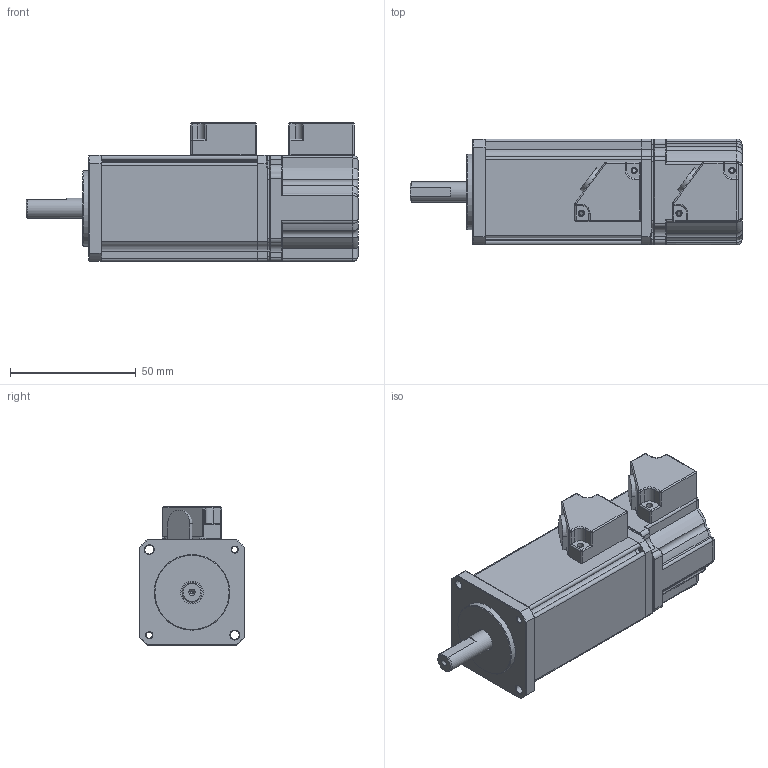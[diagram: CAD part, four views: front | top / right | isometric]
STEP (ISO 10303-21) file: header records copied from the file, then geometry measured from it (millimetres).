
FILE_DESCRIPTION( ( 'Unknown' ), '1' );
FILE_NAME( 'C:/Documents and Settings/leon/桌面/工作資料/3D型錄相關/3D組立圖(給子勤)/要寄的壓縮檔/KM無煞車機種/stp/DTSC04101C2NGUD0K.stp', 'Unknown', ( 'Unknown' ), ( 'Unknown' ), 'PSStep 14.0', 'Unknown', ' ' );
FILE_SCHEMA( ( 'AUTOMOTIVE_DESIGN { 1 0 10303 214 1 1 1 1 }' ) );
Length unit declared in the file: millimetre
Products named in the file (13): 0S200WM00T001-00; 0S211WM00T001-01; 0S180WMC1B6LP-03; 0S331WMA0B10P-02; Assem1; 0S301W0A0B10P-00; 0S302W0A0B10P-01; 0S362W42351B1-00; 0S861WB102211-02; 0S871WHPPCN20-02; 0S871WHPPCN20-02-oa0; 0S152W6A15H01-00; 0S152W6A15H01-00-oa1
Assembly tree (12 placements, depth 3):
  Assem1
    0S301W0A0B10P-00
    0S302W0A0B10P-01
    0S362W42351B1-00
    0S861WB102211-02
    0S871WHPPCN20-02
    0S871WHPPCN20-02-oa0
    0S152W6A15H01-00
    0S152W6A15H01-00-oa1
    0S180WMC1B6LP-03
      0S331WMA0B10P-02
    0S200WM00T001-00
      0S211WM00T001-01
Bounding box: 131.8 x 42 x 55 mm (x, y, z)
Volume: 192373.8 mm3; surface area: 44460.8 mm2
Topology: 10 solids, 15 shells, 497 faces, 1237 edges, 754 vertices
Faces by surface type: plane 203, cylinder 194, cone 58, sphere 18, torus 16, bspline 8
Full cylindrical faces by diameter (mm): 1 x1, 1.567 x4, 1.713 x4, 2.013 x1, 2.2 x6, 2.3 x2, 2.45 x2, 2.459 x4, 2.5 x4, 3.5 x4, 8 x1, 9 x1, 13 x1, 17 x1, 30 x1, 35 x1, 38.1 x2, 38.5 x1
Entity records: 18651 total; most frequent: CARTESIAN_POINT 3067, DIRECTION 2505, ORIENTED_EDGE 2194, EDGE_CURVE 1097, AXIS2_PLACEMENT_3D 943, VERTEX_POINT 707, LINE 619, VECTOR 619
